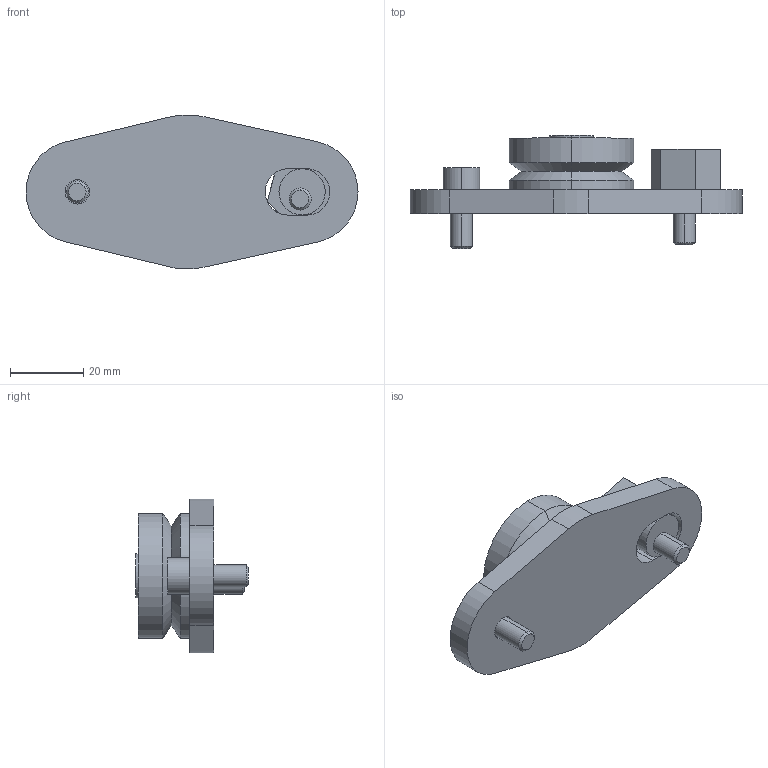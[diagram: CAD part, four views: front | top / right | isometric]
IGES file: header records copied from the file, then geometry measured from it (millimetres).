
Start section: 3D InterOp IGES (Version 21 0 1), Spatial Corp. Copyright (c) 1999-2007.
Global section: file name: RBHJ34E.igs; native system: Spatial Corp.; preprocessor: 3D InterOp GENERIC/IGES 3.0; author: Noname; organization: Noname; date: 20220627.165046; units: millimetre
Bounding box: 90.5 x 30.8 x 41.95 mm (x, y, z)
Surface area: 11086.8 mm2 (no closed solid volume)
Topology: 0 solids, 0 shells, 78 faces, 370 edges, 370 vertices
Faces by surface type: extrusion 45, revolution 33
